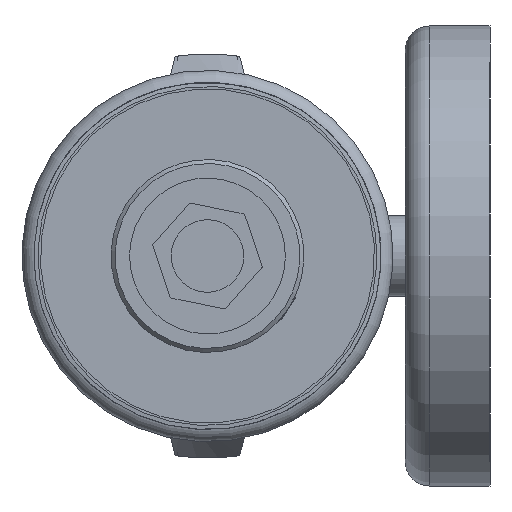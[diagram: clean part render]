
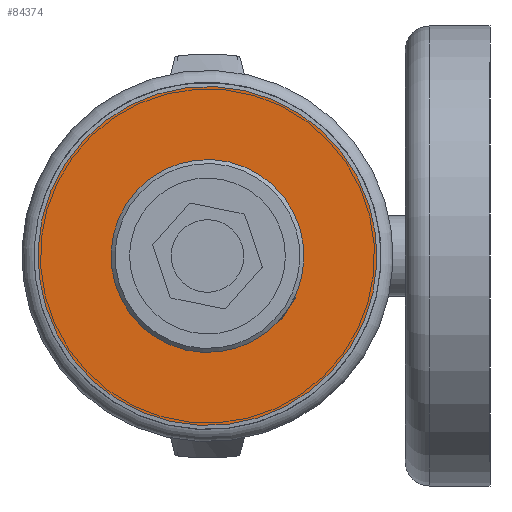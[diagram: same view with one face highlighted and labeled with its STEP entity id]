
A CAD part, left-side view. The second image highlights one B-rep face of the part: STEP entity #84374.
In plain terms, the highlighted planar face has unit normal (-1, 0, 0).
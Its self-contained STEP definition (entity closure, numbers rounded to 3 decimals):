
#2467 = FACE_OUTER_BOUND ( 'NONE', #67264, .T. ) ;
#3019 = DIRECTION ( 'NONE',  ( 1., 0., 0. ) ) ;
#7906 = ORIENTED_EDGE ( 'NONE', *, *, #32349, .T. ) ;
#8640 = EDGE_LOOP ( 'NONE', ( #7906 ) ) ;
#9923 = CARTESIAN_POINT ( 'NONE',  ( -152.7, 41.343, 1.42 ) ) ;
#11804 = VERTEX_POINT ( 'NONE', #9923 ) ;
#20267 = DIRECTION ( 'NONE',  ( 0., 0.976, 0.218 ) ) ;
#24065 = AXIS2_PLACEMENT_3D ( 'NONE', #83071, #24807, #54628 ) ;
#24669 = PLANE ( 'NONE',  #39745 ) ;
#24807 = DIRECTION ( 'NONE',  ( 1., 0., 0. ) ) ;
#29790 = AXIS2_PLACEMENT_3D ( 'NONE', #75783, #3019, #32417 ) ;
#30222 = EDGE_CURVE ( 'NONE', #68190, #68190, #91334, .T. ) ;
#31745 = CIRCLE ( 'NONE', #24065, 6.5 ) ;
#32349 = EDGE_CURVE ( 'NONE', #11804, #11804, #31745, .T. ) ;
#32417 = DIRECTION ( 'NONE',  ( 0., 0.976, 0.218 ) ) ;
#39745 = AXIS2_PLACEMENT_3D ( 'NONE', #78571, #47743, #20267 ) ;
#47743 = DIRECTION ( 'NONE',  ( 1., 0., 0. ) ) ;
#52815 = CARTESIAN_POINT ( 'NONE',  ( -152.7, 55.493, 4.587 ) ) ;
#54628 = DIRECTION ( 'NONE',  ( 0., 0.976, 0.218 ) ) ;
#67264 = EDGE_LOOP ( 'NONE', ( #79889 ) ) ;
#68190 = VERTEX_POINT ( 'NONE', #52815 ) ;
#75783 = CARTESIAN_POINT ( 'NONE',  ( -152.7, 35., 0. ) ) ;
#78571 = CARTESIAN_POINT ( 'NONE',  ( -152.7, 30.413, 20.493 ) ) ;
#79889 = ORIENTED_EDGE ( 'NONE', *, *, #30222, .F. ) ;
#81962 = FACE_BOUND ( 'NONE', #8640, .T. ) ;
#83071 = CARTESIAN_POINT ( 'NONE',  ( -152.7, 35., 0. ) ) ;
#84374 = ADVANCED_FACE ( 'NONE', ( #2467, #81962 ), #24669, .F. ) ;
#91334 = CIRCLE ( 'NONE', #29790, 21. ) ;
